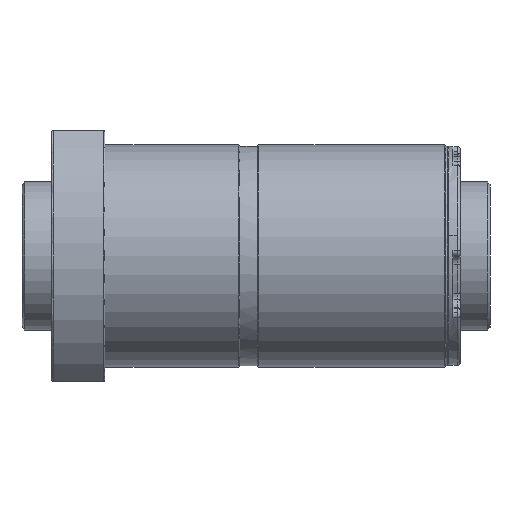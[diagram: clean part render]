
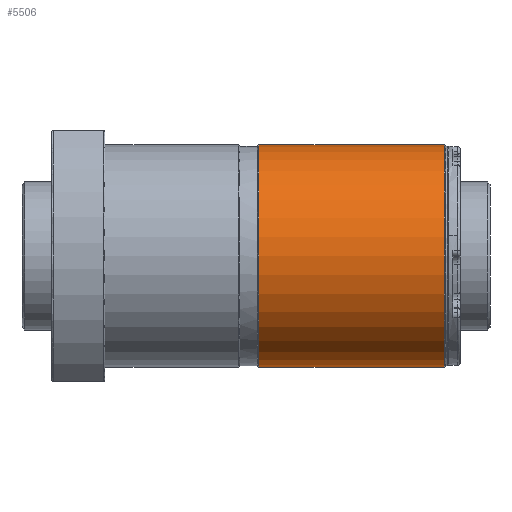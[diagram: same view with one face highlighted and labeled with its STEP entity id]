
A CAD part, front view. The second image highlights one B-rep face of the part: STEP entity #5506.
In plain terms, the highlighted cylindrical face has radius 37.5 mm (diameter 75 mm), a partial arc.
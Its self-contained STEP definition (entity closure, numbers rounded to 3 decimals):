
#225 = VECTOR ( 'NONE', #14802, 1000. ) ;
#482 = LINE ( 'NONE', #3160, #9455 ) ;
#631 = CARTESIAN_POINT ( 'NONE',  ( 70., 0., 0. ) ) ;
#816 = ORIENTED_EDGE ( 'NONE', *, *, #2191, .T. ) ;
#837 = CARTESIAN_POINT ( 'NONE',  ( 70., 0., -37.5 ) ) ;
#915 = CARTESIAN_POINT ( 'NONE',  ( 132.5, 0., -37.5 ) ) ;
#2191 = EDGE_CURVE ( 'NONE', #8976, #6026, #13519, .T. ) ;
#2346 = AXIS2_PLACEMENT_3D ( 'NONE', #631, #13525, #8746 ) ;
#2429 = CYLINDRICAL_SURFACE ( 'NONE', #6479, 37.5 ) ;
#3160 = CARTESIAN_POINT ( 'NONE',  ( 133., 0., -37.5 ) ) ;
#3415 = EDGE_CURVE ( 'NONE', #7965, #9843, #12748, .T. ) ;
#3923 = CARTESIAN_POINT ( 'NONE',  ( 70., 0., 37.5 ) ) ;
#4478 = FACE_OUTER_BOUND ( 'NONE', #9519, .T. ) ;
#5506 = ADVANCED_FACE ( 'NONE', ( #4478 ), #2429, .T. ) ;
#5703 = DIRECTION ( 'NONE',  ( -1., 0., 0. ) ) ;
#5791 = AXIS2_PLACEMENT_3D ( 'NONE', #9105, #5703, #11542 ) ;
#6026 = VERTEX_POINT ( 'NONE', #8957 ) ;
#6343 = DIRECTION ( 'NONE',  ( -1., 0., 0. ) ) ;
#6479 = AXIS2_PLACEMENT_3D ( 'NONE', #11011, #6343, #6531 ) ;
#6531 = DIRECTION ( 'NONE',  ( 0., 0., 1. ) ) ;
#7705 = ORIENTED_EDGE ( 'NONE', *, *, #8952, .F. ) ;
#7965 = VERTEX_POINT ( 'NONE', #3923 ) ;
#8130 = ORIENTED_EDGE ( 'NONE', *, *, #13049, .T. ) ;
#8746 = DIRECTION ( 'NONE',  ( 0., 0., 1. ) ) ;
#8952 = EDGE_CURVE ( 'NONE', #8976, #9843, #482, .T. ) ;
#8957 = CARTESIAN_POINT ( 'NONE',  ( 132.5, 0., 37.5 ) ) ;
#8976 = VERTEX_POINT ( 'NONE', #915 ) ;
#9105 = CARTESIAN_POINT ( 'NONE',  ( 132.5, 0., 0. ) ) ;
#9455 = VECTOR ( 'NONE', #12420, 1000. ) ;
#9519 = EDGE_LOOP ( 'NONE', ( #7705, #816, #8130, #11960 ) ) ;
#9843 = VERTEX_POINT ( 'NONE', #837 ) ;
#11011 = CARTESIAN_POINT ( 'NONE',  ( 133., 0., 0. ) ) ;
#11542 = DIRECTION ( 'NONE',  ( 0., 0., 1. ) ) ;
#11566 = LINE ( 'NONE', #12532, #225 ) ;
#11960 = ORIENTED_EDGE ( 'NONE', *, *, #3415, .T. ) ;
#12420 = DIRECTION ( 'NONE',  ( -1., 0., 0. ) ) ;
#12532 = CARTESIAN_POINT ( 'NONE',  ( 133., 0., 37.5 ) ) ;
#12748 = CIRCLE ( 'NONE', #2346, 37.5 ) ;
#13049 = EDGE_CURVE ( 'NONE', #6026, #7965, #11566, .T. ) ;
#13519 = CIRCLE ( 'NONE', #5791, 37.5 ) ;
#13525 = DIRECTION ( 'NONE',  ( 1., 0., 0. ) ) ;
#14802 = DIRECTION ( 'NONE',  ( -1., 0., 0. ) ) ;
